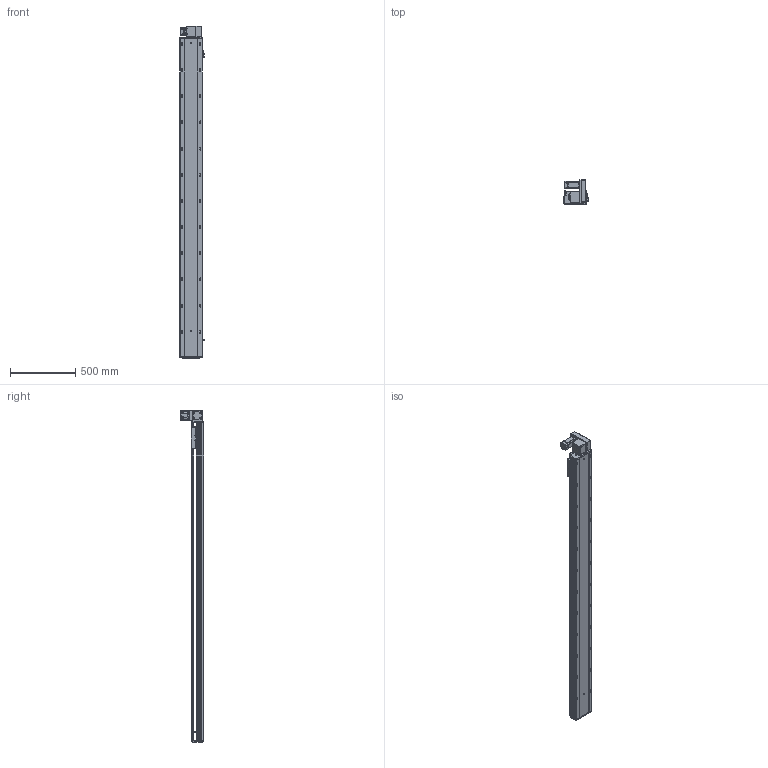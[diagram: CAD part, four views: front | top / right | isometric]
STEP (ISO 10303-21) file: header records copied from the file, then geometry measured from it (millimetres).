
FILE_DESCRIPTION (( 'STEP AP203' ), '1' );
FILE_NAME ('RY170-T-300-UR-P400W.SLDASM_2150.step', '2021-03-01T09:29:19', ( '盈信电脑' ), ( '东莞市道滘镇水果街19号' ), 'SwSTEP 2.0', 'SolidWorks 2012', '' );
FILE_SCHEMA (( 'CONFIG_CONTROL_DESIGN' ));
Length unit declared in the file: millimetre
Products named in the file (18): RY170-T-300-UR-P400W.SLDASM_2150; 滅袉蝶18-10; 15; RY170-T蹟翐M4; RY120-T主同步轮轴承压盖; RY170-T肮祭湍揤踡輸2; RY170-T肮祭謫裔啣; RY170-T肮祭湍揤踡輸1; RY170同步轮电机安装板(400W); RY170肮祭謫萇儂欶; RY170翋肮祭謫釱; RY170肮祭謫ヶ裔啣; RY170外置感应片(200共用）; 覜茼ん672; RY170-T-300肮祭謫倰第菁釱-DR_2150; RY170-T-300肮祭謫倰第裔啣-DR_2150; RY170綴裔啣; RY170肮祭湍臏賑輸
Assembly tree (22 placements, depth 2):
  RY170-T-300-UR-P400W.SLDASM_2150
    RY170-T-300肮祭謫倰第菁釱-DR_2150
    RY170肮祭湍臏賑輸
    RY170-T-300肮祭謫倰第裔啣-DR_2150
    RY170綴裔啣
    覜茼ん672  x3
    RY170外置感应片(200共用）
    RY170肮祭謫ヶ裔啣
    RY170翋肮祭謫釱
    RY170同步轮电机安装板(400W)
    RY170肮祭謫萇儂欶
    RY170-T肮祭湍揤踡輸1  x2
    RY170-T肮祭湍揤踡輸2  x2
    RY120-T主同步轮轴承压盖
    RY170-T肮祭謫裔啣
    RY170-T蹟翐M4
    滅袉蝶18-10  x2
    15
Bounding box: 183.7 x 182 x 2538 mm (x, y, z)
Volume: 11714258.3 mm3; surface area: 4041650 mm2
Topology: 22 solids, 22 shells, 3036 faces, 8514 edges, 5421 vertices
Faces by surface type: cylinder 1420, plane 1270, cone 316, bspline 30
Entity records: 92424 total; most frequent: CARTESIAN_POINT 21447, ORIENTED_EDGE 14576, DIRECTION 14208, EDGE_CURVE 7288, AXIS2_PLACEMENT_3D 5052, VERTEX_POINT 4777, LINE 4104, VECTOR 4104
